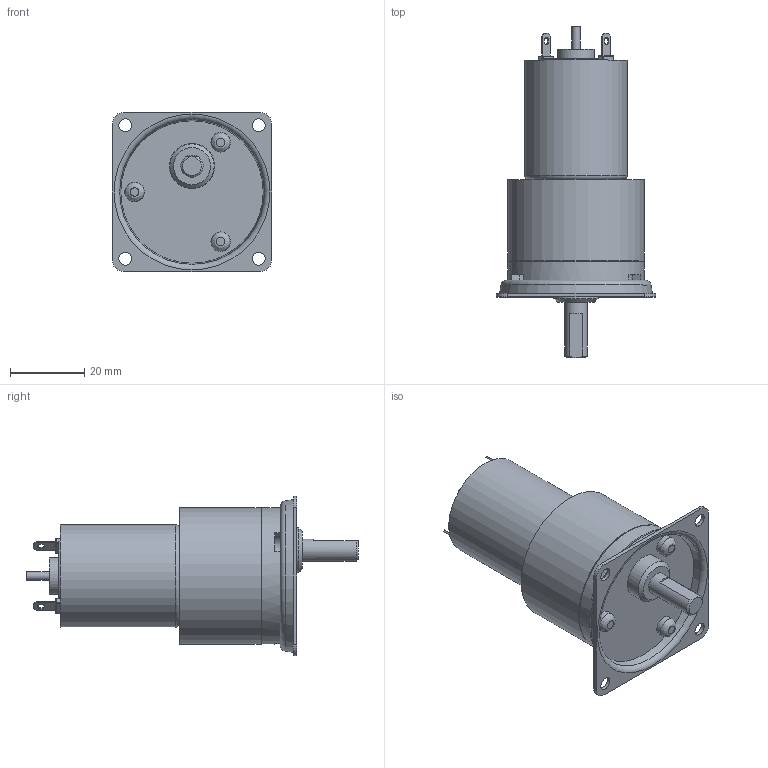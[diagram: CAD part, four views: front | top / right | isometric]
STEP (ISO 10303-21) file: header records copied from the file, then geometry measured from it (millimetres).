
FILE_DESCRIPTION((''),'2;1');
FILE_NAME('C:\Documents and Settings\SSEGAWA\デスクトップ\TP-2732D-PKS-4.STP','2013-07-01T14:01:48',('SSEGAWA'),(''),'Autodesk Inventor 2010','Autodesk Inventor 2010','');
FILE_SCHEMA(('CONFIG_CONTROL_DESIGN'));
Length unit declared in the file: millimetre
Products named in the file (5): tp_2732def_pks_4; pks_4; ks_4; □43; tp_2732d,e,f
Assembly tree (4 placements, depth 3):
  tp_2732def_pks_4
    pks_4
      ks_4
      □43
    tp_2732d,e,f
Bounding box: 43 x 89.7 x 43 mm (x, y, z)
Volume: 51772.9 mm3; surface area: 15277 mm2
Topology: 4 solids, 4 shells, 192 faces, 432 edges, 278 vertices
Faces by surface type: plane 106, cylinder 44, bspline 32, torus 6, cone 4
Full cylindrical faces by diameter (mm): 2 x2, 2.305 x2, 2.5 x5, 5.3 x3, 6 x1, 9 x2, 10 x2, 12 x1, 12.2 x1, 19 x1, 26.7 x1, 27.7 x1, 36.6 x1, 37 x2
Entity records: 5411 total; most frequent: CARTESIAN_POINT 1337, DIRECTION 831, ORIENTED_EDGE 702, EDGE_CURVE 351, AXIS2_PLACEMENT_3D 313, EDGE_LOOP 293, VERTEX_POINT 254, VECTOR 205
